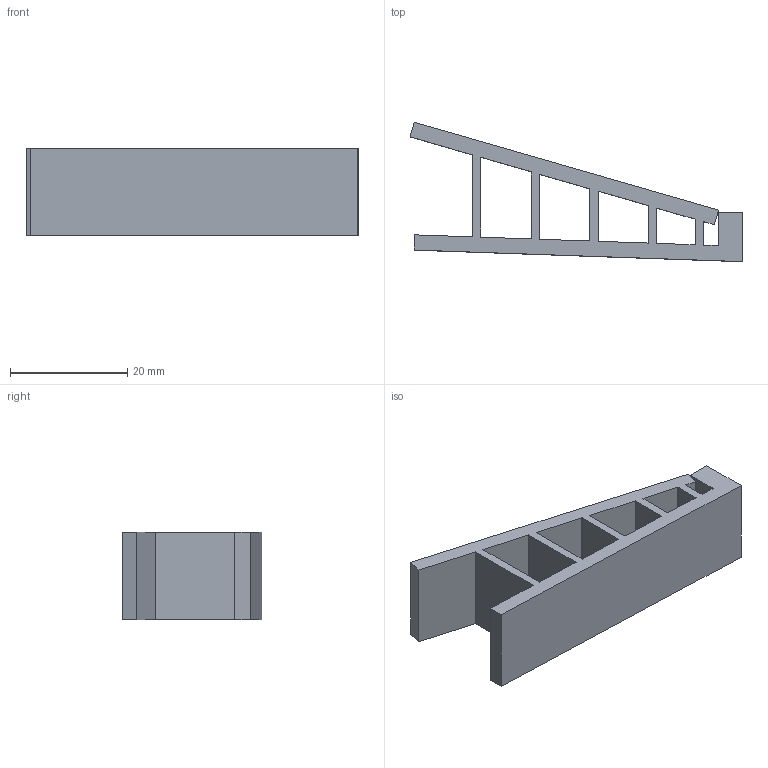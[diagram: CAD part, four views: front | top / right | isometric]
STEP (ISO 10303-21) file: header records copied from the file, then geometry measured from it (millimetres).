
FILE_DESCRIPTION(('Open CASCADE Model'),'2;1');
FILE_NAME('Open CASCADE Shape Model','2026-10-16T00:29:52',('Author'),( 'Open CASCADE'),'Open CASCADE STEP processor 7.9','Open CASCADE 7.9' ,'Unknown');
FILE_SCHEMA(('AUTOMOTIVE_DESIGN { 1 0 10303 214 1 1 1 1 }'));
Length unit declared in the file: millimetre
Products named in the file (1): Open CASCADE STEP translator 7.9 15
Bounding box: 56.72 x 23.8 x 15 mm (x, y, z)
Volume: 5561.7 mm3; surface area: 5481.1 mm2
Topology: 1 solids, 1 shells, 386 faces, 1152 edges, 768 vertices
Faces by surface type: plane 386
Entity records: 27698 total; most frequent: CARTESIAN_POINT 4611, DIRECTION 4230, LINE 3456, VECTOR 3456, ORIENTED_EDGE 2304, PCURVE 2304, DEFINITIONAL_REPRESENTATION 2304, EDGE_CURVE 1152
